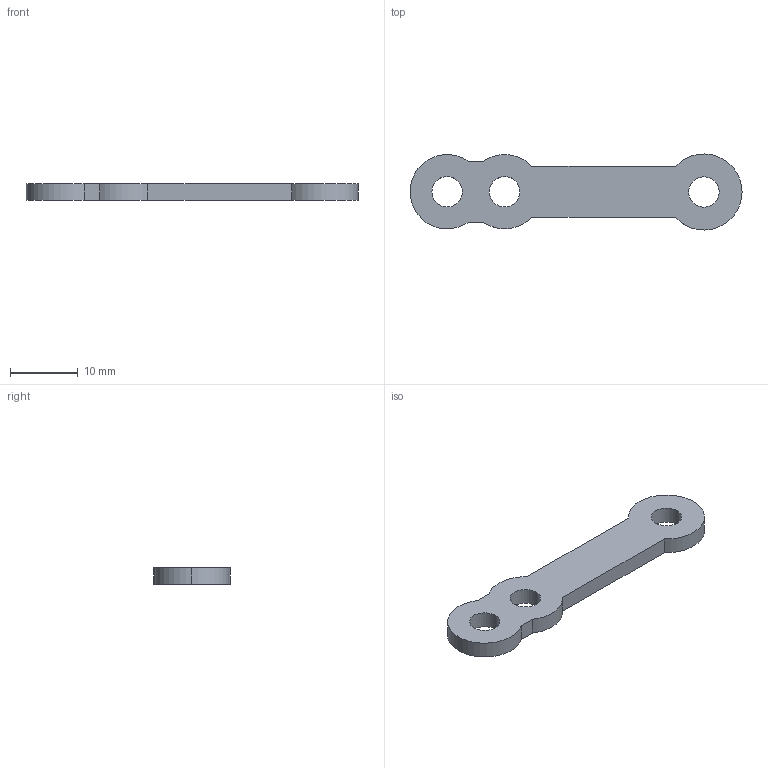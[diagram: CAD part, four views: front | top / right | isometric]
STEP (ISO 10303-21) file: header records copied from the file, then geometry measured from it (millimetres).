
FILE_DESCRIPTION (( 'STEP AP203' ), '1' );
FILE_NAME ('Gimbal Boom Plate (3 clamps RTU) (CapNut) v1.STEP', '2016-10-20T20:52:00', ( 'drhyoo' ), ( '' ), 'SwSTEP 2.0', 'SolidWorks 2016', '' );
FILE_SCHEMA (( 'CONFIG_CONTROL_DESIGN' ));
Length unit declared in the file: millimetre
Products named in the file (1): Gimbal Boom Plate (3 clamps RTU) (CapNut) v1
Bounding box: 49.13 x 11.26 x 2.5 mm (x, y, z)
Volume: 942 mm3; surface area: 1144.1 mm2
Topology: 1 solids, 1 shells, 17 faces, 45 edges, 30 vertices
Faces by surface type: cylinder 11, plane 6
Entity records: 630 total; most frequent: DIRECTION 103, CARTESIAN_POINT 93, ORIENTED_EDGE 90, EDGE_CURVE 45, AXIS2_PLACEMENT_3D 40, VERTEX_POINT 30, LINE 23, EDGE_LOOP 23
